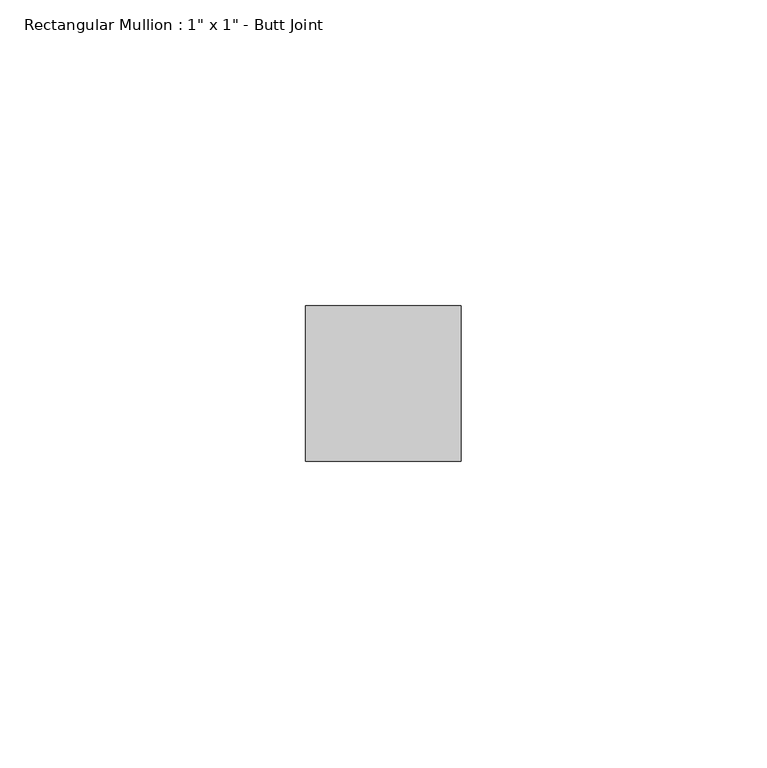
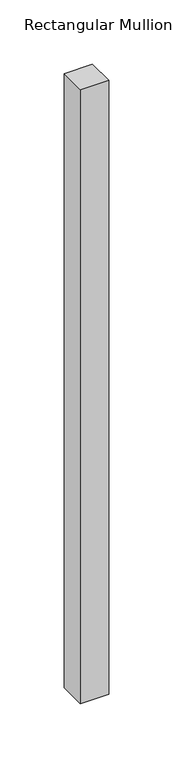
"""IFC4 building model written with IfcOpenShell, lengths in millimetres: member geometry."""

from ifc_helpers import new_model, si_unit, frame, origin, place, context, project, spatial, polyline, outline, extrude, source, transform, mapped, element, save


def member_78bb2ef1(model_context):
    return source(origin(), model_context, "Body", "SweptSolid", [
        extrude(outline(polyline([(12.7, 12.7), (12.7, -12.7), (-12.7, -12.7), (-12.7, 12.7), (12.7, 12.7)])), frame((0.0, 0.0, -584.2), z_axis=(0.0, 0.0, 1.0), x_axis=(1.0, 0.0, 0.0)), (0.0, 0.0, 1.0), 584.2),
    ])


if __name__ == "__main__":
    model = new_model("IFC4")
    model_context = context("Model", 3, world=origin())
    ifc_project = project(units=[si_unit("LENGTHUNIT", "METRE", prefix="MILLI")], contexts=[model_context])
    site = spatial("IfcSite", under=ifc_project)
    building = spatial("IfcBuilding", under=site)
    placement = place(None, origin())
    member_shape = member_78bb2ef1(model_context)
    element("IfcMember", 1, ObjectType="Rectangular Mullion : 1\" x 1\" - Butt Joint", at=placement, inside=building, context=model_context, shape_type="MappedRepresentation", body=[
        mapped(member_shape, transform((0.0, 0.0, 0.0), x_axis=(1.0, 0.0, 0.0), y_axis=(0.0, 1.0, 0.0), z_axis=(0.0, 0.0, 1.0))),
    ])
    save(model, "model.ifc")
